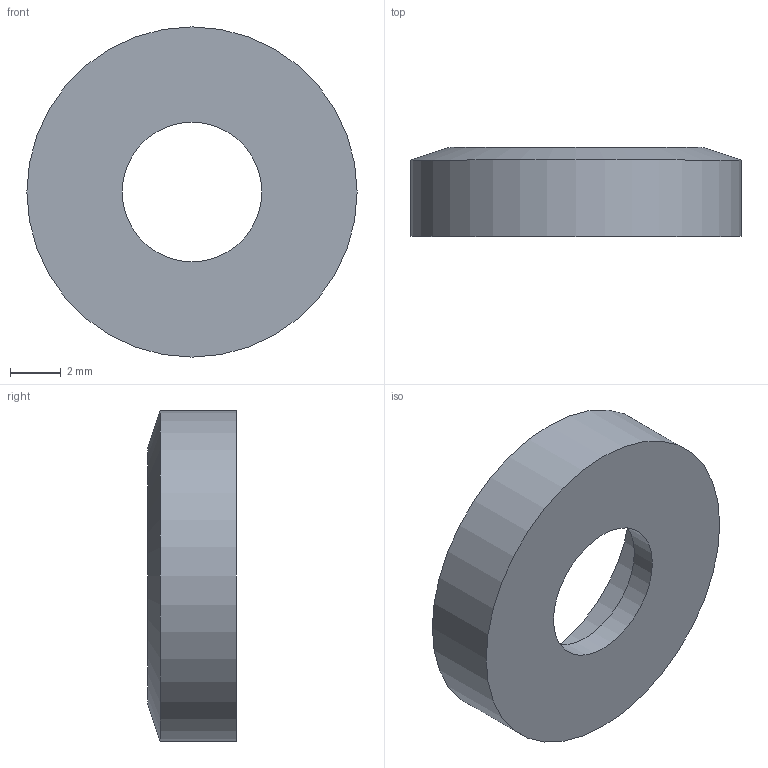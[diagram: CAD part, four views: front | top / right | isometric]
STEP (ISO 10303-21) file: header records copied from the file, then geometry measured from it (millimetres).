
FILE_DESCRIPTION (( 'STEP AP214' ), '1' );
FILE_NAME ('F12749.step', '2024-12-03T16:15:18', ( '' ), ( '' ), 'SwSTEP 2.0', 'SolidWorks 2023', '' );
FILE_SCHEMA (( 'AUTOMOTIVE_DESIGN' ));
Length unit declared in the file: millimetre
Products named in the file (1): F12749
Bounding box: 13 x 3.5 x 13 mm (x, y, z)
Volume: 230.3 mm3; surface area: 439.2 mm2
Topology: 1 solids, 1 shells, 6 faces, 10 edges, 6 vertices
Faces by surface type: cylinder 3, plane 2, cone 1
Full cylindrical faces by diameter (mm): 5.5 x1, 10 x1, 13 x1
Entity records: 151 total; most frequent: DIRECTION 26, CARTESIAN_POINT 19, AXIS2_PLACEMENT_3D 13, EDGE_LOOP 12, ORIENTED_EDGE 12, FACE_OUTER_BOUND 9, VERTEX_POINT 6, CIRCLE 6
